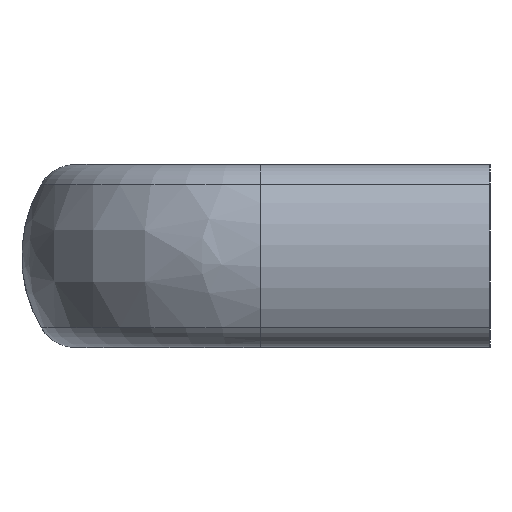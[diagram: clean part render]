
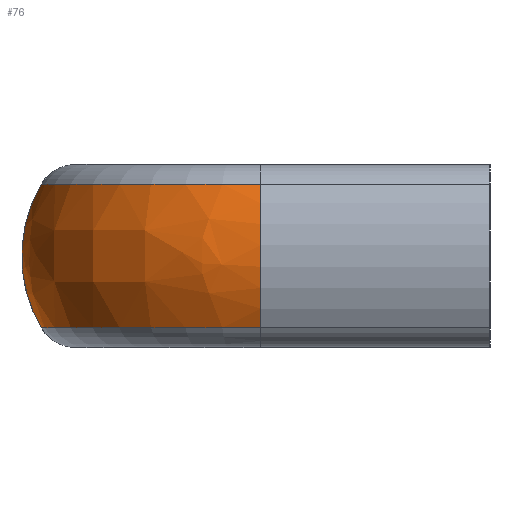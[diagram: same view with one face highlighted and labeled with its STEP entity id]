
A CAD part, left-side view. The second image highlights one B-rep face of the part: STEP entity #76.
In plain terms, the highlighted free-form (B-spline) face has degree [3, 3] with [4, 4] control points.
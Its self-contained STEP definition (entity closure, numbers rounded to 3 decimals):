
#76 = ADVANCED_FACE( '', ( #131 ), #132, .T. );
#131 = FACE_OUTER_BOUND( '', #243, .T. );
#132 = ( BOUNDED_SURFACE(  )B_SPLINE_SURFACE( 3, 3, ( ( #246, #247, #248, #249 ), ( #250, #251, #252, #253 ), ( #254, #255, #256, #257 ), ( #258, #259, #260, #261 ) ), .UNSPECIFIED., .F., .F., .F. )B_SPLINE_SURFACE_WITH_KNOTS( ( 4, 4 ), ( 4, 4 ), ( 1.571, 3.142 ), ( -0.533, 0.533 ), .UNSPECIFIED. )GEOMETRIC_REPRESENTATION_ITEM(  )RATIONAL_B_SPLINE_SURFACE( ( ( 1., 0.805, 0.805, 1. ), ( 0.907, 0.73, 0.73, 0.907 ), ( 0.907, 0.73, 0.73, 0.907 ), ( 1., 0.805, 0.805, 1. ) ) )REPRESENTATION_ITEM( '' )SURFACE(  ) );
#243 = EDGE_LOOP( '', ( #404, #405, #406, #407 ) );
#246 = CARTESIAN_POINT( '', ( -44.5, 48.852, 7.826 ) );
#247 = CARTESIAN_POINT( '', ( -58.472, 48.852, 7.826 ) );
#248 = CARTESIAN_POINT( '', ( -68.352, 38.972, 7.826 ) );
#249 = CARTESIAN_POINT( '', ( -68.352, 25., 7.826 ) );
#250 = CARTESIAN_POINT( '', ( -44.5, 51.775, 2.875 ) );
#251 = CARTESIAN_POINT( '', ( -60.185, 51.775, 2.875 ) );
#252 = CARTESIAN_POINT( '', ( -71.275, 40.685, 2.875 ) );
#253 = CARTESIAN_POINT( '', ( -71.275, 25., 2.875 ) );
#254 = CARTESIAN_POINT( '', ( -44.5, 51.775, -2.875 ) );
#255 = CARTESIAN_POINT( '', ( -60.185, 51.775, -2.875 ) );
#256 = CARTESIAN_POINT( '', ( -71.275, 40.685, -2.875 ) );
#257 = CARTESIAN_POINT( '', ( -71.275, 25., -2.875 ) );
#258 = CARTESIAN_POINT( '', ( -44.5, 48.852, -7.826 ) );
#259 = CARTESIAN_POINT( '', ( -58.472, 48.852, -7.826 ) );
#260 = CARTESIAN_POINT( '', ( -68.352, 38.972, -7.826 ) );
#261 = CARTESIAN_POINT( '', ( -68.352, 25., -7.826 ) );
#404 = ORIENTED_EDGE( '', *, *, #799, .T. );
#405 = ORIENTED_EDGE( '', *, *, #800, .F. );
#406 = ORIENTED_EDGE( '', *, *, #801, .F. );
#407 = ORIENTED_EDGE( '', *, *, #802, .T. );
#799 = EDGE_CURVE( '', #921, #925, #927, .T. );
#800 = EDGE_CURVE( '', #928, #925, #929, .T. );
#801 = EDGE_CURVE( '', #930, #928, #931, .T. );
#802 = EDGE_CURVE( '', #930, #921, #932, .T. );
#921 = VERTEX_POINT( '', #1118 );
#925 = VERTEX_POINT( '', #1127 );
#927 = CIRCLE( '', #1129, 23.852 );
#928 = VERTEX_POINT( '', #1130 );
#929 = CIRCLE( '', #1131, 15.391 );
#930 = VERTEX_POINT( '', #1132 );
#931 = CIRCLE( '', #1133, 23.852 );
#932 = B_SPLINE_CURVE_WITH_KNOTS( '', 3, ( #1134, #1135, #1136, #1137, #1138, #1139, #1140, #1141, #1142, #1143 ), .UNSPECIFIED., .F., .F., ( 4, 2, 2, 2, 4 ), ( 0., 0.25, 0.5, 0.75, 1. ), .UNSPECIFIED. );
#1118 = CARTESIAN_POINT( '', ( -44.5, 48.852, -7.833 ) );
#1127 = CARTESIAN_POINT( '', ( -68.352, 25., -7.826 ) );
#1129 = AXIS2_PLACEMENT_3D( '', #1398, #1399, #1400 );
#1130 = CARTESIAN_POINT( '', ( -68.352, 25., 7.826 ) );
#1131 = AXIS2_PLACEMENT_3D( '', #1401, #1402, #1403 );
#1132 = CARTESIAN_POINT( '', ( -44.5, 48.851, 7.834 ) );
#1133 = AXIS2_PLACEMENT_3D( '', #1404, #1405, #1406 );
#1134 = CARTESIAN_POINT( '', ( -44.5, 48.852, 7.826 ) );
#1135 = CARTESIAN_POINT( '', ( -44.5, 49.548, 6.648 ) );
#1136 = CARTESIAN_POINT( '', ( -44.5, 50.085, 5.376 ) );
#1137 = CARTESIAN_POINT( '', ( -44.5, 50.806, 2.736 ) );
#1138 = CARTESIAN_POINT( '', ( -44.5, 50.99, 1.368 ) );
#1139 = CARTESIAN_POINT( '', ( -44.5, 50.99, -1.368 ) );
#1140 = CARTESIAN_POINT( '', ( -44.5, 50.806, -2.736 ) );
#1141 = CARTESIAN_POINT( '', ( -44.5, 50.085, -5.376 ) );
#1142 = CARTESIAN_POINT( '', ( -44.5, 49.548, -6.648 ) );
#1143 = CARTESIAN_POINT( '', ( -44.5, 48.852, -7.826 ) );
#1398 = CARTESIAN_POINT( '', ( -44.5, 25., -7.826 ) );
#1399 = DIRECTION( '', ( 0., 0., 1. ) );
#1400 = DIRECTION( '', ( 1., 0., 0. ) );
#1401 = CARTESIAN_POINT( '', ( -55.099, 25., 0. ) );
#1402 = DIRECTION( '', ( 0., -1., 0. ) );
#1403 = DIRECTION( '', ( 0., 0., 1. ) );
#1404 = CARTESIAN_POINT( '', ( -44.5, 25., 7.826 ) );
#1405 = DIRECTION( '', ( 0., 0., 1. ) );
#1406 = DIRECTION( '', ( 1., 0., 0. ) );
